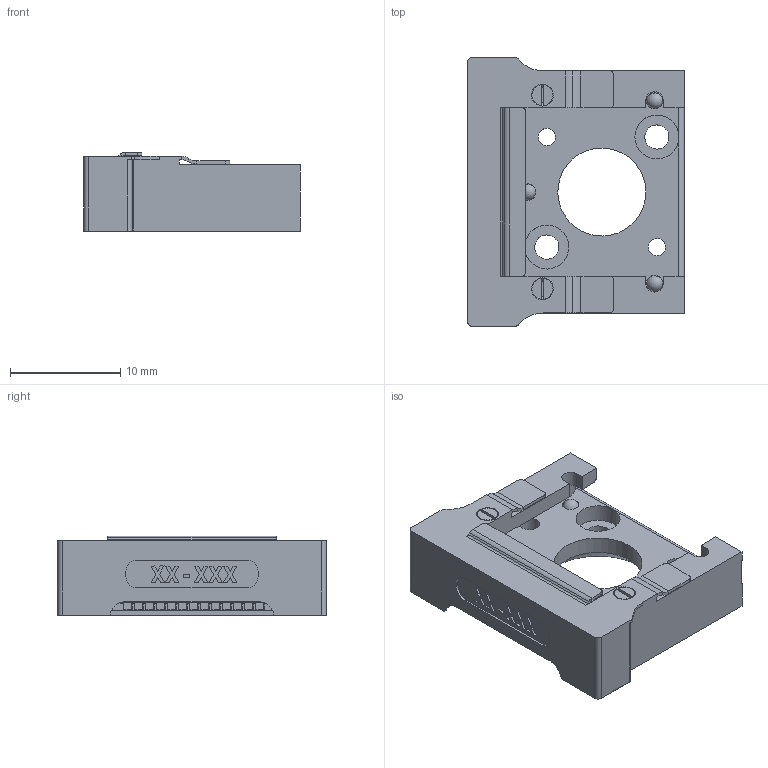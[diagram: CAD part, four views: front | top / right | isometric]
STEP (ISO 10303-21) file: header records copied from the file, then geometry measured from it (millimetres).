
FILE_DESCRIPTION(('Confidential','CAx-IF Rec.Pracs.--- Model Styling and Organization---1.2---2011-12-15','CAx-IF Rec.Pracs.--- Geometric and Assembly Validation Properties ---3.1---2011-10-19'),'2;1');
FILE_NAME('W:\KONSTRUKTION\PRODUCTS\REC\RECOM\RECOMEC13\RECOMEC13_Rev_E.stp','2026-08-11T14:06:43+00:00',('none'),('Ferrovac AG'),'CATIA Version 5 Release 21 SP 6 (IN-10)','CATIA V5 STEP AP214 Edition 3','PROPERTY OF FERROVAC AG');
FILE_SCHEMA(('AUTOMOTIVE_DESIGN { 1 0 10303 214 3 1 1 1 }'));
Products named in the file (1): RECOMEC13_Rev_E
Bounding box: 19.7 x 24.4 x 7.26 mm (x, y, z)
Volume: 1465.9 mm3; surface area: 2970.6 mm2
Topology: 6 solids, 26 shells, 2030 faces, 5299 edges, 3161 vertices
Faces by surface type: plane 1207, cylinder 614, cone 156, torus 40, sphere 13
Entity records: 58681 total; most frequent: CARTESIAN_POINT 11894, ORIENTED_EDGE 10542, DIRECTION 7003, EDGE_CURVE 5271, VECTOR 3356, LINE 3356, VERTEX_POINT 3161, AXIS2_PLACEMENT_3D 2557
